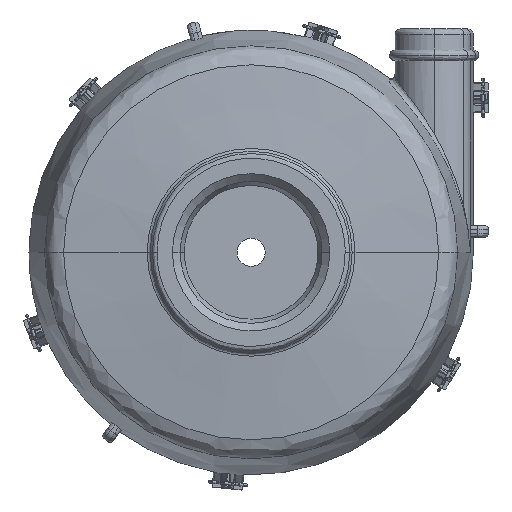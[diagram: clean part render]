
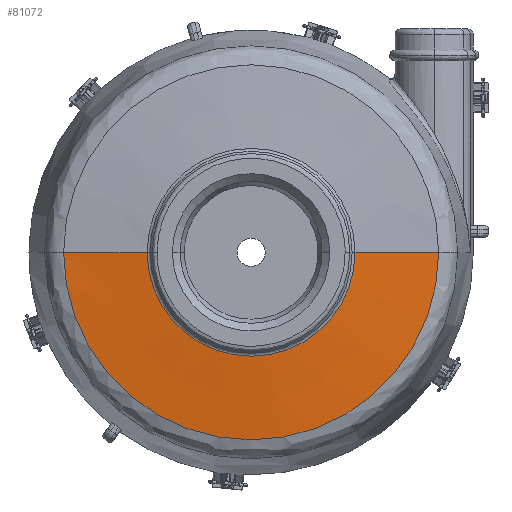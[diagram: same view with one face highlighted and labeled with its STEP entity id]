
A CAD part, top view. The second image highlights one B-rep face of the part: STEP entity #81072.
In plain terms, the highlighted conical face has half-angle 83.957 degrees and reference radius 53.27 mm.
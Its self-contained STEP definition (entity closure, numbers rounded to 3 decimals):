
#413 = DIRECTION ( 'NONE',  ( 0., 0., -1. ) ) ;
#5633 = VERTEX_POINT ( 'NONE', #6188 ) ;
#6188 = CARTESIAN_POINT ( 'NONE',  ( -53.27, 0., -2.326 ) ) ;
#10355 = CARTESIAN_POINT ( 'NONE',  ( 53.27, 0., -2.326 ) ) ;
#14708 = EDGE_LOOP ( 'NONE', ( #101740, #19422, #89126, #14750 ) ) ;
#14750 = ORIENTED_EDGE ( 'NONE', *, *, #34568, .F. ) ;
#18025 = DIRECTION ( 'NONE',  ( -1., 0., 0. ) ) ;
#19422 = ORIENTED_EDGE ( 'NONE', *, *, #106286, .T. ) ;
#23687 = LINE ( 'NONE', #52274, #125158 ) ;
#31026 = AXIS2_PLACEMENT_3D ( 'NONE', #109128, #50221, #118982 ) ;
#31605 = CIRCLE ( 'NONE', #31026, 29.512 ) ;
#34568 = EDGE_CURVE ( 'NONE', #50199, #5633, #51432, .T. ) ;
#34752 = EDGE_CURVE ( 'NONE', #61343, #5633, #23687, .T. ) ;
#36778 = AXIS2_PLACEMENT_3D ( 'NONE', #106102, #37328, #18025 ) ;
#37328 = DIRECTION ( 'NONE',  ( 0., 0., -1. ) ) ;
#43724 = FACE_OUTER_BOUND ( 'NONE', #14708, .T. ) ;
#50199 = VERTEX_POINT ( 'NONE', #10355 ) ;
#50221 = DIRECTION ( 'NONE',  ( 0., 0., -1. ) ) ;
#50362 = EDGE_CURVE ( 'NONE', #76668, #50199, #103255, .T. ) ;
#51432 = CIRCLE ( 'NONE', #126203, 53.27 ) ;
#52134 = CARTESIAN_POINT ( 'NONE',  ( 29.512, 0., 0.189 ) ) ;
#52274 = CARTESIAN_POINT ( 'NONE',  ( -53.27, 0., -2.326 ) ) ;
#53197 = DIRECTION ( 'NONE',  ( 0.994, 0., -0.105 ) ) ;
#57571 = CONICAL_SURFACE ( 'NONE', #36778, 53.27, 1.465 ) ;
#59175 = CARTESIAN_POINT ( 'NONE',  ( 0., 0., -2.326 ) ) ;
#61343 = VERTEX_POINT ( 'NONE', #91598 ) ;
#68966 = DIRECTION ( 'NONE',  ( 1., 0., 0. ) ) ;
#76668 = VERTEX_POINT ( 'NONE', #52134 ) ;
#76951 = VECTOR ( 'NONE', #53197, 1000. ) ;
#80647 = CARTESIAN_POINT ( 'NONE',  ( 53.27, 0., -2.326 ) ) ;
#81072 = ADVANCED_FACE ( 'NONE', ( #43724 ), #57571, .T. ) ;
#81860 = DIRECTION ( 'NONE',  ( -0.994, 0., -0.105 ) ) ;
#89126 = ORIENTED_EDGE ( 'NONE', *, *, #34752, .T. ) ;
#91598 = CARTESIAN_POINT ( 'NONE',  ( -29.512, 0., 0.189 ) ) ;
#101740 = ORIENTED_EDGE ( 'NONE', *, *, #50362, .F. ) ;
#103255 = LINE ( 'NONE', #80647, #76951 ) ;
#106102 = CARTESIAN_POINT ( 'NONE',  ( 0., 0., -2.326 ) ) ;
#106286 = EDGE_CURVE ( 'NONE', #76668, #61343, #31605, .T. ) ;
#109128 = CARTESIAN_POINT ( 'NONE',  ( 0., 0., 0.189 ) ) ;
#118982 = DIRECTION ( 'NONE',  ( -1., 0., 0. ) ) ;
#125158 = VECTOR ( 'NONE', #81860, 1000. ) ;
#126203 = AXIS2_PLACEMENT_3D ( 'NONE', #59175, #413, #68966 ) ;
